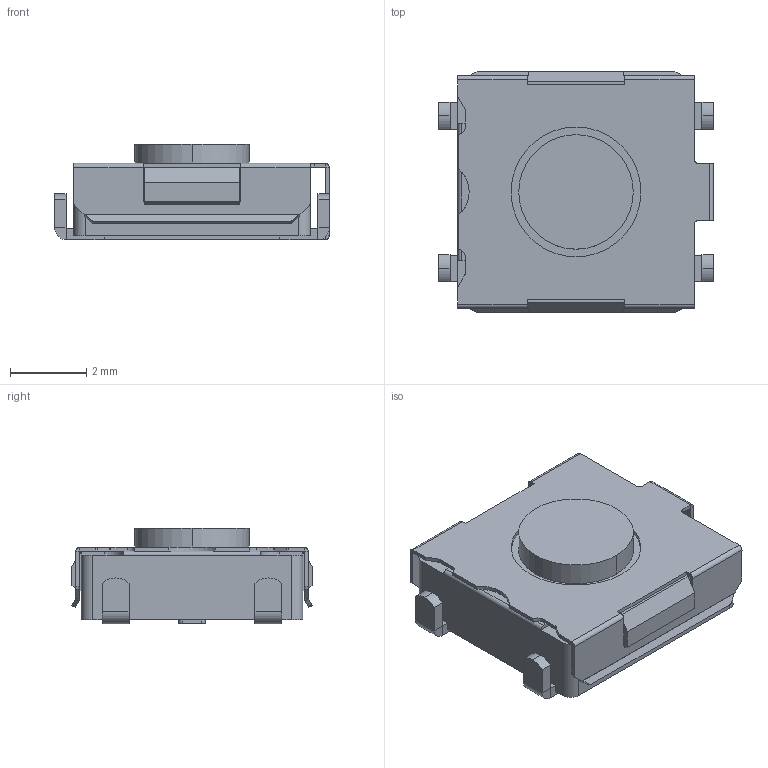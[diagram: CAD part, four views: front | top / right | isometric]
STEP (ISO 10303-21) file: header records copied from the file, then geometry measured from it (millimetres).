
FILE_DESCRIPTION (( 'STEP AP214' ), '1' );
FILE_NAME ('SKHUPL.STEP', '2010-12-24T01:57:45', ( '' ), ( '' ), 'SwSTEP 2.0', 'SolidWorks 2007', '' );
FILE_SCHEMA (( 'AUTOMOTIVE_DESIGN' ));
Length unit declared in the file: millimetre
Products named in the file (1): SKHUPL
Bounding box: 7.2 x 6.3 x 2.5 mm (x, y, z)
Volume: 75.5 mm3; surface area: 182 mm2
Topology: 1 solids, 1 shells, 238 faces, 604 edges, 362 vertices
Faces by surface type: plane 159, cylinder 75, bspline 4
Entity records: 9695 total; most frequent: CARTESIAN_POINT 1273, DIRECTION 1212, ORIENTED_EDGE 1208, EDGE_CURVE 604, VECTOR 450, LINE 450, AXIS2_PLACEMENT_3D 381, VERTEX_POINT 362
